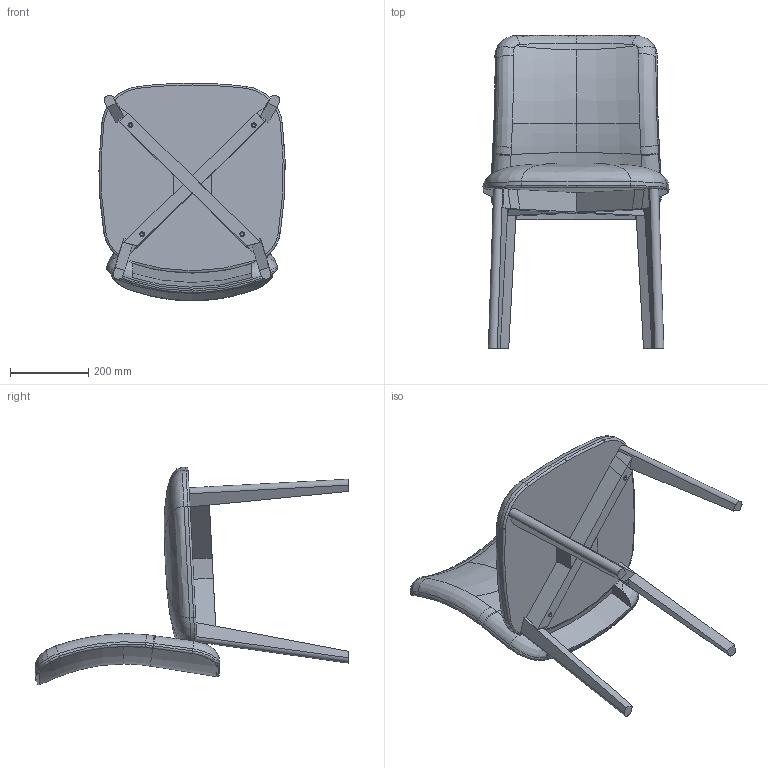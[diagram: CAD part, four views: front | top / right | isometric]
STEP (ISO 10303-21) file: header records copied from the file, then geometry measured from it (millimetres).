
FILE_DESCRIPTION (( 'STEP AP214' ), '1' );
FILE_NAME ('FG53410-00-00.STEP', '2023-06-26T08:43:08', ( '' ), ( '' ), 'SwSTEP 2.0', 'SolidWorks 2020', '' );
FILE_SCHEMA (( 'AUTOMOTIVE_DESIGN' ));
Length unit declared in the file: millimetre
Products named in the file (4): SH53401-01-00_IMBOTTITO; FS53410-01-00_Default<A macchina>; SD53401-01-00_IMBOTTITO; FG53410-00-00
Assembly tree (3 placements, depth 2):
  FG53410-00-00
    FS53410-01-00_Default<A macchina>
    SD53401-01-00_IMBOTTITO
    SH53401-01-00_IMBOTTITO
Bounding box: 474.88 x 799.83 x 555.76 mm (x, y, z)
Volume: 22674060.5 mm3; surface area: 1326973.4 mm2
Topology: 18 solids, 18 shells, 289 faces, 637 edges, 400 vertices
Faces by surface type: plane 107, cylinder 98, bspline 65, torus 17, cone 2
Entity records: 32449 total; most frequent: CARTESIAN_POINT 26356, ORIENTED_EDGE 1266, DIRECTION 1027, EDGE_CURVE 633, VERTEX_POINT 400, AXIS2_PLACEMENT_3D 391, EDGE_LOOP 319, ADVANCED_FACE 289
